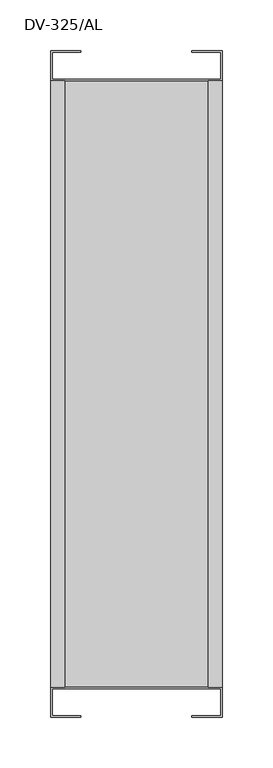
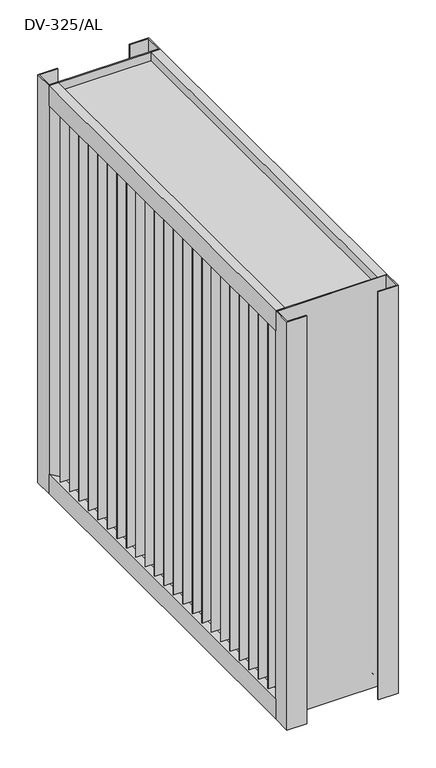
"""IFC4 building model written with IfcOpenShell, lengths in millimetres: damper geometry, DUA_UN_Drip tray DV_SMA : DV-325/AL."""

from ifc_helpers import new_model, si_unit, frame, origin, place, context, project, spatial, polyline, outline, extrude, source, transform, mapped, element, save


def dv_325_al_647e2a6a(model_context):
    return source(origin(), model_context, "Body", "SweptSolid", [
        extrude(outline(polyline([(19.4840178, 243.0114855), (-52.2769147, 266.837237), (-53.9292042, 266.7504315), (-54.5398267, 265.552108), (-53.0695577, 263.8739125), (-51.2366042, 260.633217), (-53.5045352, 257.6800645), (-65.7846727, 253.460026), (-80.0, 253.460026), (-80.0, 254.460053), (-65.7846727, 254.460053), (-54.1142082, 258.527911), (-52.4328932, 260.717174), (-53.7918072, 263.119789), (-55.6929842, 265.491751), (-54.5580017, 267.7189915), (-52.0617997, 267.8500135), (20.3774368, 243.6786), (21.1006353, 239.7783855), (18.9310388, 237.369328), (18.4112908, 234.923785), (20.2692008, 233.250879), (22.6468593, 234.023652), (66.0482808, 254.460053), (80.0, 254.460053), (80.0, 253.460026), (66.4935663, 253.460026), (23.2106888, 233.1555965), (20.0291293, 232.1213215), (17.3130648, 234.567068), (18.0084588, 237.8393665), (20.0273663, 240.08112), (19.4840178, 243.0114855)])), frame((0.0, 0.0, -300.0), z_axis=(0.0, 0.0, 1.0), x_axis=(1.0, 0.0, 0.0)), (0.0, 0.0, 1.0), 600.0),
        extrude(outline(polyline([(19.4840178, 218.0114855), (-52.2769147, 241.837237), (-53.9292042, 241.7504315), (-54.5398267, 240.552108), (-53.0695577, 238.8739125), (-51.2366042, 235.633217), (-53.5045352, 232.6800645), (-65.7846727, 228.460026), (-80.0, 228.460026), (-80.0, 229.460053), (-65.7846727, 229.460053), (-54.1142082, 233.527911), (-52.4328932, 235.717174), (-53.7918072, 238.119789), (-55.6929842, 240.491751), (-54.5580017, 242.7189915), (-52.0617997, 242.8500135), (20.3774368, 218.6786), (21.1006353, 214.7783855), (18.9310388, 212.369328), (18.4112908, 209.923785), (20.2692008, 208.250879), (22.6468593, 209.023652), (66.0482808, 229.460053), (80.0, 229.460053), (80.0, 228.460026), (66.4935663, 228.460026), (23.2106888, 208.1555965), (20.0291293, 207.1213215), (17.3130648, 209.567068), (18.0084588, 212.8393665), (20.0273663, 215.08112), (19.4840178, 218.0114855)])), frame((0.0, 0.0, -300.0), z_axis=(0.0, 0.0, 1.0), x_axis=(1.0, 0.0, 0.0)), (0.0, 0.0, 1.0), 600.0),
        extrude(outline(polyline([(19.4840178, 193.0114855), (-52.2769147, 216.837237), (-53.9292042, 216.7504315), (-54.5398267, 215.552108), (-53.0695577, 213.8739125), (-51.2366042, 210.633217), (-53.5045352, 207.6800645), (-65.7846727, 203.460026), (-80.0, 203.460026), (-80.0, 204.460053), (-65.7846727, 204.460053), (-54.1142082, 208.527911), (-52.4328932, 210.717174), (-53.7918072, 213.119789), (-55.6929842, 215.491751), (-54.5580017, 217.7189915), (-52.0617997, 217.8500135), (20.3774368, 193.6786), (21.1006353, 189.7783855), (18.9310388, 187.369328), (18.4112908, 184.923785), (20.2692008, 183.250879), (22.6468593, 184.023652), (66.0482808, 204.460053), (80.0, 204.460053), (80.0, 203.460026), (66.4935663, 203.460026), (23.2106888, 183.1555965), (20.0291293, 182.1213215), (17.3130648, 184.567068), (18.0084588, 187.8393665), (20.0273663, 190.08112), (19.4840178, 193.0114855)])), frame((0.0, 0.0, -300.0), z_axis=(0.0, 0.0, 1.0), x_axis=(1.0, 0.0, 0.0)), (0.0, 0.0, 1.0), 600.0),
        extrude(outline(polyline([(19.4840178, 168.0114855), (-52.2769147, 191.837237), (-53.9292042, 191.7504315), (-54.5398267, 190.552108), (-53.0695577, 188.8739125), (-51.2366042, 185.633217), (-53.5045352, 182.6800645), (-65.7846727, 178.460026), (-80.0, 178.460026), (-80.0, 179.460053), (-65.7846727, 179.460053), (-54.1142082, 183.527911), (-52.4328932, 185.717174), (-53.7918072, 188.119789), (-55.6929842, 190.491751), (-54.5580017, 192.7189915), (-52.0617997, 192.8500135), (20.3774368, 168.6786), (21.1006353, 164.7783855), (18.9310388, 162.369328), (18.4112908, 159.923785), (20.2692008, 158.250879), (22.6468593, 159.023652), (66.0482808, 179.460053), (80.0, 179.460053), (80.0, 178.460026), (66.4935663, 178.460026), (23.2106888, 158.1555965), (20.0291293, 157.1213215), (17.3130648, 159.567068), (18.0084588, 162.8393665), (20.0273663, 165.08112), (19.4840178, 168.0114855)])), frame((0.0, 0.0, -300.0), z_axis=(0.0, 0.0, 1.0), x_axis=(1.0, 0.0, 0.0)), (0.0, 0.0, 1.0), 600.0),
        extrude(outline(polyline([(19.4840178, 143.0114855), (-52.2769147, 166.837237), (-53.9292042, 166.7504315), (-54.5398267, 165.552108), (-53.0695577, 163.8739125), (-51.2366042, 160.633217), (-53.5045352, 157.6800645), (-65.7846727, 153.460026), (-80.0, 153.460026), (-80.0, 154.460053), (-65.7846727, 154.460053), (-54.1142082, 158.527911), (-52.4328932, 160.717174), (-53.7918072, 163.119789), (-55.6929842, 165.491751), (-54.5580017, 167.7189915), (-52.0617997, 167.8500135), (20.3774368, 143.6786), (21.1006353, 139.7783855), (18.9310388, 137.369328), (18.4112908, 134.923785), (20.2692008, 133.250879), (22.6468593, 134.023652), (66.0482808, 154.460053), (80.0, 154.460053), (80.0, 153.460026), (66.4935663, 153.460026), (23.2106888, 133.1555965), (20.0291293, 132.1213215), (17.3130648, 134.567068), (18.0084588, 137.8393665), (20.0273663, 140.08112), (19.4840178, 143.0114855)])), frame((0.0, 0.0, -300.0), z_axis=(0.0, 0.0, 1.0), x_axis=(1.0, 0.0, 0.0)), (0.0, 0.0, 1.0), 600.0),
        extrude(outline(polyline([(19.4840178, 118.0114855), (-52.2769147, 141.837237), (-53.9292042, 141.7504315), (-54.5398267, 140.552108), (-53.0695577, 138.8739125), (-51.2366042, 135.633217), (-53.5045352, 132.6800645), (-65.7846727, 128.460026), (-80.0, 128.460026), (-80.0, 129.460053), (-65.7846727, 129.460053), (-54.1142082, 133.527911), (-52.4328932, 135.717174), (-53.7918072, 138.119789), (-55.6929842, 140.491751), (-54.5580017, 142.7189915), (-52.0617997, 142.8500135), (20.3774368, 118.6786), (21.1006353, 114.7783855), (18.9310388, 112.369328), (18.4112908, 109.923785), (20.2692008, 108.250879), (22.6468593, 109.023652), (66.0482808, 129.460053), (80.0, 129.460053), (80.0, 128.460026), (66.4935663, 128.460026), (23.2106888, 108.1555965), (20.0291293, 107.1213215), (17.3130648, 109.567068), (18.0084588, 112.8393665), (20.0273663, 115.08112), (19.4840178, 118.0114855)])), frame((0.0, 0.0, -300.0), z_axis=(0.0, 0.0, 1.0), x_axis=(1.0, 0.0, 0.0)), (0.0, 0.0, 1.0), 600.0),
        extrude(outline(polyline([(19.4840178, 93.0114855), (-52.2769147, 116.837237), (-53.9292042, 116.7504315), (-54.5398267, 115.552108), (-53.0695577, 113.8739125), (-51.2366042, 110.633217), (-53.5045352, 107.6800645), (-65.7846727, 103.460026), (-80.0, 103.460026), (-80.0, 104.460053), (-65.7846727, 104.460053), (-54.1142082, 108.527911), (-52.4328932, 110.717174), (-53.7918072, 113.119789), (-55.6929842, 115.491751), (-54.5580017, 117.7189915), (-52.0617997, 117.8500135), (20.3774368, 93.6786), (21.1006353, 89.7783855), (18.9310388, 87.369328), (18.4112908, 84.923785), (20.2692008, 83.250879), (22.6468593, 84.023652), (66.0482808, 104.460053), (80.0, 104.460053), (80.0, 103.460026), (66.4935663, 103.460026), (23.2106888, 83.1555965), (20.0291293, 82.1213215), (17.3130648, 84.567068), (18.0084588, 87.8393665), (20.0273663, 90.08112), (19.4840178, 93.0114855)])), frame((0.0, 0.0, -300.0), z_axis=(0.0, 0.0, 1.0), x_axis=(1.0, 0.0, 0.0)), (0.0, 0.0, 1.0), 600.0),
        extrude(outline(polyline([(19.4840178, 68.0114855), (-52.2769147, 91.837237), (-53.9292042, 91.7504315), (-54.5398267, 90.552108), (-53.0695577, 88.8739125), (-51.2366042, 85.633217), (-53.5045352, 82.6800645), (-65.7846727, 78.460026), (-80.0, 78.460026), (-80.0, 79.460053), (-65.7846727, 79.460053), (-54.1142082, 83.527911), (-52.4328932, 85.717174), (-53.7918072, 88.119789), (-55.6929842, 90.491751), (-54.5580017, 92.7189915), (-52.0617997, 92.8500135), (20.3774368, 68.6786), (21.1006353, 64.7783855), (18.9310388, 62.369328), (18.4112908, 59.923785), (20.2692008, 58.250879), (22.6468593, 59.023652), (66.0482808, 79.460053), (80.0, 79.460053), (80.0, 78.460026), (66.4935663, 78.460026), (23.2106888, 58.1555965), (20.0291293, 57.1213215), (17.3130648, 59.567068), (18.0084588, 62.8393665), (20.0273663, 65.08112), (19.4840178, 68.0114855)])), frame((0.0, 0.0, -300.0), z_axis=(0.0, 0.0, 1.0), x_axis=(1.0, 0.0, 0.0)), (0.0, 0.0, 1.0), 600.0),
        extrude(outline(polyline([(19.4840178, 43.0114855), (-52.2769147, 66.837237), (-53.9292042, 66.7504315), (-54.5398267, 65.552108), (-53.0695577, 63.8739125), (-51.2366042, 60.633217), (-53.5045352, 57.6800645), (-65.7846727, 53.460026), (-80.0, 53.460026), (-80.0, 54.460053), (-65.7846727, 54.460053), (-54.1142082, 58.527911), (-52.4328932, 60.717174), (-53.7918072, 63.119789), (-55.6929842, 65.491751), (-54.5580017, 67.7189915), (-52.0617997, 67.8500135), (20.3774368, 43.6786), (21.1006353, 39.7783855), (18.9310388, 37.369328), (18.4112908, 34.923785), (20.2692008, 33.250879), (22.6468593, 34.023652), (66.0482808, 54.460053), (80.0, 54.460053), (80.0, 53.460026), (66.4935663, 53.460026), (23.2106888, 33.1555965), (20.0291293, 32.1213215), (17.3130648, 34.567068), (18.0084588, 37.8393665), (20.0273663, 40.08112), (19.4840178, 43.0114855)])), frame((0.0, 0.0, -300.0), z_axis=(0.0, 0.0, 1.0), x_axis=(1.0, 0.0, 0.0)), (0.0, 0.0, 1.0), 600.0),
        extrude(outline(polyline([(19.4840178, 18.0114855), (-52.2769147, 41.837237), (-53.9292042, 41.7504315), (-54.5398267, 40.552108), (-53.0695577, 38.8739125), (-51.2366042, 35.633217), (-53.5045352, 32.6800645), (-65.7846727, 28.460026), (-80.0, 28.460026), (-80.0, 29.460053), (-65.7846727, 29.460053), (-54.1142082, 33.527911), (-52.4328932, 35.717174), (-53.7918072, 38.119789), (-55.6929842, 40.491751), (-54.5580017, 42.7189915), (-52.0617997, 42.8500135), (20.3774368, 18.6786), (21.1006353, 14.7783855), (18.9310388, 12.369328), (18.4112908, 9.923785), (20.2692008, 8.250879), (22.6468593, 9.023652), (66.0482808, 29.460053), (80.0, 29.460053), (80.0, 28.460026), (66.4935663, 28.460026), (23.2106888, 8.1555965), (20.0291293, 7.1213215), (17.3130648, 9.567068), (18.0084588, 12.8393665), (20.0273663, 15.08112), (19.4840178, 18.0114855)])), frame((0.0, 0.0, -300.0), z_axis=(0.0, 0.0, 1.0), x_axis=(1.0, 0.0, 0.0)), (0.0, 0.0, 1.0), 600.0),
        extrude(outline(polyline([(19.4840178, -6.9885145), (-52.2769147, 16.837237), (-53.9292042, 16.7504315), (-54.5398267, 15.552108), (-53.0695577, 13.8739125), (-51.2366042, 10.633217), (-53.5045352, 7.6800645), (-65.7846727, 3.460026), (-80.0, 3.460026), (-80.0, 4.460053), (-65.7846727, 4.460053), (-54.1142082, 8.527911), (-52.4328932, 10.717174), (-53.7918072, 13.119789), (-55.6929842, 15.491751), (-54.5580017, 17.7189915), (-52.0617997, 17.8500135), (20.3774368, -6.3214), (21.1006353, -10.2216145), (18.9310388, -12.630672), (18.4112908, -15.076215), (20.2692008, -16.749121), (22.6468593, -15.976348), (66.0482808, 4.460053), (80.0, 4.460053), (80.0, 3.460026), (66.4935663, 3.460026), (23.2106888, -16.8444035), (20.0291293, -17.8786785), (17.3130648, -15.432932), (18.0084588, -12.1606335), (20.0273663, -9.91888), (19.4840178, -6.9885145)])), frame((0.0, 0.0, -300.0), z_axis=(0.0, 0.0, 1.0), x_axis=(1.0, 0.0, 0.0)), (0.0, 0.0, 1.0), 600.0),
        extrude(outline(polyline([(19.4840178, -31.9885145), (-52.2769147, -8.162763), (-53.9292042, -8.2495685), (-54.5398267, -9.447892), (-53.0695577, -11.1260875), (-51.2366042, -14.366783), (-53.5045352, -17.3199355), (-65.7846727, -21.539974), (-80.0, -21.539974), (-80.0, -20.539947), (-65.7846727, -20.539947), (-54.1142082, -16.472089), (-52.4328932, -14.282826), (-53.7918072, -11.880211), (-55.6929842, -9.508249), (-54.5580017, -7.2810085), (-52.0617997, -7.1499865), (20.3774368, -31.3214), (21.1006353, -35.2216145), (18.9310388, -37.630672), (18.4112908, -40.076215), (20.2692008, -41.749121), (22.6468593, -40.976348), (66.0482808, -20.539947), (80.0, -20.539947), (80.0, -21.539974), (66.4935663, -21.539974), (23.2106888, -41.8444035), (20.0291293, -42.8786785), (17.3130648, -40.432932), (18.0084588, -37.1606335), (20.0273663, -34.91888), (19.4840178, -31.9885145)])), frame((0.0, 0.0, -300.0), z_axis=(0.0, 0.0, 1.0), x_axis=(1.0, 0.0, 0.0)), (0.0, 0.0, 1.0), 600.0),
        extrude(outline(polyline([(19.4840178, -56.9885145), (-52.2769147, -33.162763), (-53.9292042, -33.2495685), (-54.5398267, -34.447892), (-53.0695577, -36.1260875), (-51.2366042, -39.366783), (-53.5045352, -42.3199355), (-65.7846727, -46.539974), (-80.0, -46.539974), (-80.0, -45.539947), (-65.7846727, -45.539947), (-54.1142082, -41.472089), (-52.4328932, -39.282826), (-53.7918072, -36.880211), (-55.6929842, -34.508249), (-54.5580017, -32.2810085), (-52.0617997, -32.1499865), (20.3774368, -56.3214), (21.1006353, -60.2216145), (18.9310388, -62.630672), (18.4112908, -65.076215), (20.2692008, -66.749121), (22.6468593, -65.976348), (66.0482808, -45.539947), (80.0, -45.539947), (80.0, -46.539974), (66.4935663, -46.539974), (23.2106888, -66.8444035), (20.0291293, -67.8786785), (17.3130648, -65.432932), (18.0084588, -62.1606335), (20.0273663, -59.91888), (19.4840178, -56.9885145)])), frame((0.0, 0.0, -300.0), z_axis=(0.0, 0.0, 1.0), x_axis=(1.0, 0.0, 0.0)), (0.0, 0.0, 1.0), 600.0),
        extrude(outline(polyline([(19.4840178, -81.9885145), (-52.2769147, -58.162763), (-53.9292042, -58.2495685), (-54.5398267, -59.447892), (-53.0695577, -61.1260875), (-51.2366042, -64.366783), (-53.5045352, -67.3199355), (-65.7846727, -71.539974), (-80.0, -71.539974), (-80.0, -70.539947), (-65.7846727, -70.539947), (-54.1142082, -66.472089), (-52.4328932, -64.282826), (-53.7918072, -61.880211), (-55.6929842, -59.508249), (-54.5580017, -57.2810085), (-52.0617997, -57.1499865), (20.3774368, -81.3214), (21.1006353, -85.2216145), (18.9310388, -87.630672), (18.4112908, -90.076215), (20.2692008, -91.749121), (22.6468593, -90.976348), (66.0482808, -70.539947), (80.0, -70.539947), (80.0, -71.539974), (66.4935663, -71.539974), (23.2106888, -91.8444035), (20.0291293, -92.8786785), (17.3130648, -90.432932), (18.0084588, -87.1606335), (20.0273663, -84.91888), (19.4840178, -81.9885145)])), frame((0.0, 0.0, -300.0), z_axis=(0.0, 0.0, 1.0), x_axis=(1.0, 0.0, 0.0)), (0.0, 0.0, 1.0), 600.0),
        extrude(outline(polyline([(19.4840178, -106.9885145), (-52.2769147, -83.162763), (-53.9292042, -83.2495685), (-54.5398267, -84.447892), (-53.0695577, -86.1260875), (-51.2366042, -89.366783), (-53.5045352, -92.3199355), (-65.7846727, -96.539974), (-80.0, -96.539974), (-80.0, -95.539947), (-65.7846727, -95.539947), (-54.1142082, -91.472089), (-52.4328932, -89.282826), (-53.7918072, -86.880211), (-55.6929842, -84.508249), (-54.5580017, -82.2810085), (-52.0617997, -82.1499865), (20.3774368, -106.3214), (21.1006353, -110.2216145), (18.9310388, -112.630672), (18.4112908, -115.076215), (20.2692008, -116.749121), (22.6468593, -115.976348), (66.0482808, -95.539947), (80.0, -95.539947), (80.0, -96.539974), (66.4935663, -96.539974), (23.2106888, -116.8444035), (20.0291293, -117.8786785), (17.3130648, -115.432932), (18.0084588, -112.1606335), (20.0273663, -109.91888), (19.4840178, -106.9885145)])), frame((0.0, 0.0, -300.0), z_axis=(0.0, 0.0, 1.0), x_axis=(1.0, 0.0, 0.0)), (0.0, 0.0, 1.0), 600.0),
        extrude(outline(polyline([(19.4840178, -131.9885145), (-52.2769147, -108.162763), (-53.9292042, -108.2495685), (-54.5398267, -109.447892), (-53.0695577, -111.1260875), (-51.2366042, -114.366783), (-53.5045352, -117.3199355), (-65.7846727, -121.539974), (-80.0, -121.539974), (-80.0, -120.539947), (-65.7846727, -120.539947), (-54.1142082, -116.472089), (-52.4328932, -114.282826), (-53.7918072, -111.880211), (-55.6929842, -109.508249), (-54.5580017, -107.2810085), (-52.0617997, -107.1499865), (20.3774368, -131.3214), (21.1006353, -135.2216145), (18.9310388, -137.630672), (18.4112908, -140.076215), (20.2692008, -141.749121), (22.6468593, -140.976348), (66.0482808, -120.539947), (80.0, -120.539947), (80.0, -121.539974), (66.4935663, -121.539974), (23.2106888, -141.8444035), (20.0291293, -142.8786785), (17.3130648, -140.432932), (18.0084588, -137.1606335), (20.0273663, -134.91888), (19.4840178, -131.9885145)])), frame((0.0, 0.0, -300.0), z_axis=(0.0, 0.0, 1.0), x_axis=(1.0, 0.0, 0.0)), (0.0, 0.0, 1.0), 600.0),
        extrude(outline(polyline([(19.4840178, -156.9885145), (-52.2769147, -133.162763), (-53.9292042, -133.2495685), (-54.5398267, -134.447892), (-53.0695577, -136.1260875), (-51.2366042, -139.366783), (-53.5045352, -142.3199355), (-65.7846727, -146.539974), (-80.0, -146.539974), (-80.0, -145.539947), (-65.7846727, -145.539947), (-54.1142082, -141.472089), (-52.4328932, -139.282826), (-53.7918072, -136.880211), (-55.6929842, -134.508249), (-54.5580017, -132.2810085), (-52.0617997, -132.1499865), (20.3774368, -156.3214), (21.1006353, -160.2216145), (18.9310388, -162.630672), (18.4112908, -165.076215), (20.2692008, -166.749121), (22.6468593, -165.976348), (66.0482808, -145.539947), (80.0, -145.539947), (80.0, -146.539974), (66.4935663, -146.539974), (23.2106888, -166.8444035), (20.0291293, -167.8786785), (17.3130648, -165.432932), (18.0084588, -162.1606335), (20.0273663, -159.91888), (19.4840178, -156.9885145)])), frame((0.0, 0.0, -300.0), z_axis=(0.0, 0.0, 1.0), x_axis=(1.0, 0.0, 0.0)), (0.0, 0.0, 1.0), 600.0),
        extrude(outline(polyline([(19.4840178, -181.9885145), (-52.2769147, -158.162763), (-53.9292042, -158.2495685), (-54.5398267, -159.447892), (-53.0695577, -161.1260875), (-51.2366042, -164.366783), (-53.5045352, -167.3199355), (-65.7846727, -171.539974), (-80.0, -171.539974), (-80.0, -170.539947), (-65.7846727, -170.539947), (-54.1142082, -166.472089), (-52.4328932, -164.282826), (-53.7918072, -161.880211), (-55.6929842, -159.508249), (-54.5580017, -157.2810085), (-52.0617997, -157.1499865), (20.3774368, -181.3214), (21.1006353, -185.2216145), (18.9310388, -187.630672), (18.4112908, -190.076215), (20.2692008, -191.749121), (22.6468593, -190.976348), (66.0482808, -170.539947), (80.0, -170.539947), (80.0, -171.539974), (66.4935663, -171.539974), (23.2106888, -191.8444035), (20.0291293, -192.8786785), (17.3130648, -190.432932), (18.0084588, -187.1606335), (20.0273663, -184.91888), (19.4840178, -181.9885145)])), frame((0.0, 0.0, -300.0), z_axis=(0.0, 0.0, 1.0), x_axis=(1.0, 0.0, 0.0)), (0.0, 0.0, 1.0), 600.0),
        extrude(outline(polyline([(19.4840178, -206.9885145), (-52.2769147, -183.162763), (-53.9292042, -183.2495685), (-54.5398267, -184.447892), (-53.0695577, -186.1260875), (-51.2366042, -189.366783), (-53.5045352, -192.3199355), (-65.7846727, -196.539974), (-80.0, -196.539974), (-80.0, -195.539947), (-65.7846727, -195.539947), (-54.1142082, -191.472089), (-52.4328932, -189.282826), (-53.7918072, -186.880211), (-55.6929842, -184.508249), (-54.5580017, -182.2810085), (-52.0617997, -182.1499865), (20.3774368, -206.3214), (21.1006353, -210.2216145), (18.9310388, -212.630672), (18.4112908, -215.076215), (20.2692008, -216.749121), (22.6468593, -215.976348), (66.0482808, -195.539947), (80.0, -195.539947), (80.0, -196.539974), (66.4935663, -196.539974), (23.2106888, -216.8444035), (20.0291293, -217.8786785), (17.3130648, -215.432932), (18.0084588, -212.1606335), (20.0273663, -209.91888), (19.4840178, -206.9885145)])), frame((0.0, 0.0, -300.0), z_axis=(0.0, 0.0, 1.0), x_axis=(1.0, 0.0, 0.0)), (0.0, 0.0, 1.0), 600.0),
        extrude(outline(polyline([(19.4840178, -231.9885145), (-52.2769147, -208.162763), (-53.9292042, -208.2495685), (-54.5398267, -209.447892), (-53.0695577, -211.1260875), (-51.2366042, -214.366783), (-53.5045352, -217.3199355), (-65.7846727, -221.539974), (-80.0, -221.539974), (-80.0, -220.539947), (-65.7846727, -220.539947), (-54.1142082, -216.472089), (-52.4328932, -214.282826), (-53.7918072, -211.880211), (-55.6929842, -209.508249), (-54.5580017, -207.2810085), (-52.0617997, -207.1499865), (20.3774368, -231.3214), (21.1006353, -235.2216145), (18.9310388, -237.630672), (18.4112908, -240.076215), (20.2692008, -241.749121), (22.6468593, -240.976348), (66.0482808, -220.539947), (80.0, -220.539947), (80.0, -221.539974), (66.4935663, -221.539974), (23.2106888, -241.8444035), (20.0291293, -242.8786785), (17.3130648, -240.432932), (18.0084588, -237.1606335), (20.0273663, -234.91888), (19.4840178, -231.9885145)])), frame((0.0, 0.0, -300.0), z_axis=(0.0, 0.0, 1.0), x_axis=(1.0, 0.0, 0.0)), (0.0, 0.0, 1.0), 600.0),
        extrude(outline(polyline([(19.4840178, -256.9885145), (-52.2769147, -233.162763), (-53.9292042, -233.2495685), (-54.5398267, -234.447892), (-53.0695577, -236.1260875), (-51.2366042, -239.366783), (-53.5045352, -242.3199355), (-65.7846727, -246.539974), (-80.0, -246.539974), (-80.0, -245.539947), (-65.7846727, -245.539947), (-54.1142082, -241.472089), (-52.4328932, -239.282826), (-53.7918072, -236.880211), (-55.6929842, -234.508249), (-54.5580017, -232.2810085), (-52.0617997, -232.1499865), (20.3774368, -256.3214), (21.1006353, -260.2216145), (18.9310388, -262.630672), (18.4112908, -265.076215), (20.2692008, -266.749121), (22.6468593, -265.976348), (66.0482808, -245.539947), (80.0, -245.539947), (80.0, -246.539974), (66.4935663, -246.539974), (23.2106888, -266.8444035), (20.0291293, -267.8786785), (17.3130648, -265.432932), (18.0084588, -262.1606335), (20.0273663, -259.91888), (19.4840178, -256.9885145)])), frame((0.0, 0.0, -300.0), z_axis=(0.0, 0.0, 1.0), x_axis=(1.0, 0.0, 0.0)), (0.0, 0.0, 1.0), 600.0),
        extrude(outline(polyline([(19.4840178, 268.0114855), (-52.2769147, 291.837237), (-53.9292042, 291.7504315), (-54.5398267, 290.552108), (-53.0695577, 288.8739125), (-51.2366042, 285.633217), (-53.5045352, 282.6800645), (-65.7846727, 278.460026), (-80.0, 278.460026), (-80.0, 279.460053), (-65.7846727, 279.460053), (-54.1142082, 283.527911), (-52.4328932, 285.717174), (-53.7918072, 288.119789), (-55.6929842, 290.491751), (-54.5580017, 292.7189915), (-52.0617997, 292.8500135), (20.3774368, 268.6786), (21.1006353, 264.7783855), (18.9310388, 262.369328), (18.4112908, 259.923785), (20.2692008, 258.250879), (22.6468593, 259.023652), (66.0482808, 279.460053), (80.0, 279.460053), (80.0, 278.460026), (66.4935663, 278.460026), (23.2106888, 258.1555965), (20.0291293, 257.1213215), (17.3130648, 259.567068), (18.0084588, 262.8393665), (20.0273663, 265.08112), (19.4840178, 268.0114855)])), frame((0.0, 0.0, -300.0), z_axis=(0.0, 0.0, 1.0), x_axis=(1.0, 0.0, 0.0)), (0.0, 0.0, 1.0), 600.0),
        extrude(outline(polyline([(19.4840178, -281.9885145), (-52.2769147, -258.162763), (-53.9292042, -258.2495685), (-54.5398267, -259.447892), (-53.0695577, -261.1260875), (-51.2366042, -264.366783), (-53.5045352, -267.3199355), (-65.7846727, -271.539974), (-80.0, -271.539974), (-80.0, -270.539947), (-65.7846727, -270.539947), (-54.1142082, -266.472089), (-52.4328932, -264.282826), (-53.7918072, -261.880211), (-55.6929842, -259.508249), (-54.5580017, -257.2810085), (-52.0617997, -257.1499865), (20.3774368, -281.3214), (21.1006353, -285.2216145), (18.9310388, -287.630672), (18.4112908, -290.076215), (20.2692008, -291.749121), (22.6468593, -290.976348), (66.0482808, -270.539947), (80.0, -270.539947), (80.0, -271.539974), (66.4935663, -271.539974), (23.2106888, -291.8444035), (20.0291293, -292.8786785), (17.3130648, -290.432932), (18.0084588, -287.1606335), (20.0273663, -284.91888), (19.4840178, -281.9885145)])), frame((0.0, 0.0, -300.0), z_axis=(0.0, 0.0, 1.0), x_axis=(1.0, 0.0, 0.0)), (0.0, 0.0, 1.0), 600.0),
        extrude(outline(polyline([(330.0, -71.0), (330.0, -85.0), (298.081794, -85.0), (310.1735233, -64.0565104), (311.0395487, -64.5565104), (299.8138448, -84.0), (315.0, -84.0), (315.0, 84.0), (299.6890645, 84.0), (310.9459635, 64.502479), (310.102677, 64.0156073), (297.9873323, 85.0), (330.0, 85.0), (330.0, 71.0), (316.0, 71.0), (316.0, -71.0), (330.0, -71.0)])), frame((0.0, -300.0, 0.0), z_axis=(0.0, 1.0, 0.0), x_axis=(0.0, 0.0, 1.0)), (0.0, 0.0, 1.0), 600.0),
        extrude(outline(polyline([(-330.0, -71.0), (-316.0, -71.0), (-316.0, 71.0), (-330.0, 71.0), (-330.0, 85.0), (-297.9873323, 85.0), (-310.102677, 64.0156073), (-310.9459635, 64.502479), (-299.6890645, 84.0), (-315.0, 84.0), (-315.0, -84.0), (-299.8138448, -84.0), (-311.0395487, -64.5565104), (-310.1735233, -64.0565104), (-298.081794, -85.0), (-330.0, -85.0), (-330.0, -71.0)])), frame((0.0, -300.0, 0.0), z_axis=(0.0, 1.0, 0.0), x_axis=(0.0, 0.0, 1.0)), (0.0, 0.0, 1.0), 600.0),
        extrude(outline(polyline([(85.0, 300.0), (-85.0, 300.0), (-85.0, 330.0), (-55.0, 330.0), (-55.0, 328.5), (-83.5, 328.5), (-83.5, 301.5), (83.5, 301.5), (83.5, 328.5), (55.0, 328.5), (55.0, 330.0), (85.0, 330.0), (85.0, 300.0)])), frame((0.0, 0.0, -330.0), z_axis=(0.0, 0.0, 1.0), x_axis=(1.0, 0.0, 0.0)), (0.0, 0.0, 1.0), 660.0),
        extrude(outline(polyline([(85.0, -300.0), (85.0, -330.0), (55.0, -330.0), (55.0, -328.5), (83.5, -328.5), (83.5, -301.5), (-83.5, -301.5), (-83.5, -328.5), (-55.0, -328.5), (-55.0, -330.0), (-85.0, -330.0), (-85.0, -300.0), (85.0, -300.0)])), frame((0.0, 0.0, -330.0), z_axis=(0.0, 0.0, 1.0), x_axis=(1.0, 0.0, 0.0)), (0.0, 0.0, 1.0), 660.0),
    ])


if __name__ == "__main__":
    model = new_model("IFC4")
    model_context = context("Model", 3, world=origin())
    ifc_project = project(units=[si_unit("LENGTHUNIT", "METRE", prefix="MILLI")], contexts=[model_context])
    site = spatial("IfcSite", under=ifc_project)
    building = spatial("IfcBuilding", under=site)
    placement = place(None, origin())
    dv_325_al_shape = dv_325_al_647e2a6a(model_context)
    element("IfcDamper", 1, ObjectType="DUA_UN_Drip tray DV_SMA : DV-325/AL", at=placement, inside=building, context=model_context, shape_type="MappedRepresentation", body=[
        mapped(dv_325_al_shape, transform((0.0, 0.0, 0.0), x_axis=(1.0, 0.0, 0.0), y_axis=(0.0, 1.0, 0.0), z_axis=(0.0, 0.0, 1.0))),
    ])
    save(model, "model.ifc")
